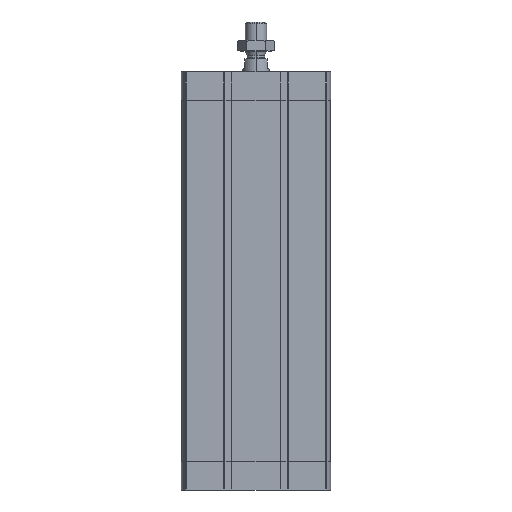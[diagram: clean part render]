
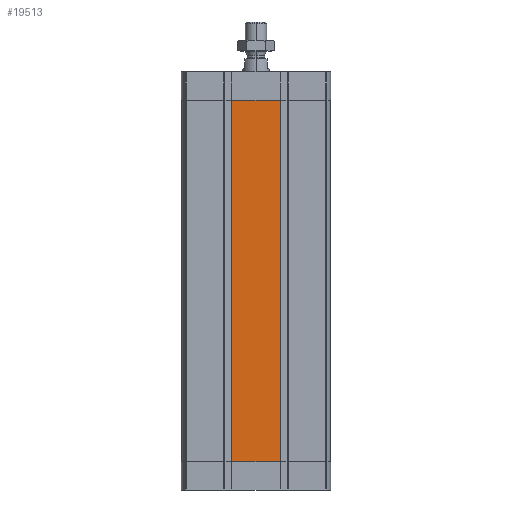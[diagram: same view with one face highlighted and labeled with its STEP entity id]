
A CAD part, left-side view. The second image highlights one B-rep face of the part: STEP entity #19513.
In plain terms, the highlighted planar face has unit normal (-1, 0, 0).
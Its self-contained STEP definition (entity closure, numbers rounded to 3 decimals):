
#47 = DIRECTION ( 'NONE',  ( 0., -1., 0. ) ) ;
#341 = CARTESIAN_POINT ( 'NONE',  ( -56.5, 18.345, -21.5 ) ) ;
#939 = LINE ( 'NONE', #7488, #8159 ) ;
#1394 = DIRECTION ( 'NONE',  ( 0., 0., 1. ) ) ;
#1420 = EDGE_CURVE ( 'NONE', #11037, #13309, #939, .T. ) ;
#2064 = CARTESIAN_POINT ( 'NONE',  ( -56.5, -18.345, -21.5 ) ) ;
#2451 = CARTESIAN_POINT ( 'NONE',  ( -56.5, -18.345, -295.5 ) ) ;
#2991 = LINE ( 'NONE', #9550, #11517 ) ;
#5367 = DIRECTION ( 'NONE',  ( 0., -1., 0. ) ) ;
#5587 = VECTOR ( 'NONE', #47, 1000. ) ;
#5826 = FACE_OUTER_BOUND ( 'NONE', #8339, .T. ) ;
#7488 = CARTESIAN_POINT ( 'NONE',  ( -56.5, 18.345, -295.5 ) ) ;
#8159 = VECTOR ( 'NONE', #20606, 1000. ) ;
#8196 = EDGE_CURVE ( 'NONE', #20294, #17422, #2991, .T. ) ;
#8209 = CARTESIAN_POINT ( 'NONE',  ( -56.5, 18.345, -295.5 ) ) ;
#8339 = EDGE_LOOP ( 'NONE', ( #15152, #15256, #13765, #12438 ) ) ;
#8836 = DIRECTION ( 'NONE',  ( -1., 0., 0. ) ) ;
#9331 = CARTESIAN_POINT ( 'NONE',  ( -56.5, 18.345, -21.5 ) ) ;
#9550 = CARTESIAN_POINT ( 'NONE',  ( -56.5, -18.345, -295.5 ) ) ;
#11037 = VERTEX_POINT ( 'NONE', #8209 ) ;
#11141 = AXIS2_PLACEMENT_3D ( 'NONE', #20331, #8836, #13984 ) ;
#11218 = VECTOR ( 'NONE', #5367, 1000. ) ;
#11517 = VECTOR ( 'NONE', #1394, 1000. ) ;
#12438 = ORIENTED_EDGE ( 'NONE', *, *, #8196, .T. ) ;
#13309 = VERTEX_POINT ( 'NONE', #9331 ) ;
#13765 = ORIENTED_EDGE ( 'NONE', *, *, #18014, .T. ) ;
#13984 = DIRECTION ( 'NONE',  ( 0., 0., 1. ) ) ;
#15152 = ORIENTED_EDGE ( 'NONE', *, *, #15338, .F. ) ;
#15256 = ORIENTED_EDGE ( 'NONE', *, *, #1420, .F. ) ;
#15338 = EDGE_CURVE ( 'NONE', #13309, #17422, #20093, .T. ) ;
#15702 = PLANE ( 'NONE',  #11141 ) ;
#17422 = VERTEX_POINT ( 'NONE', #2064 ) ;
#18014 = EDGE_CURVE ( 'NONE', #11037, #20294, #19598, .T. ) ;
#19513 = ADVANCED_FACE ( 'NONE', ( #5826 ), #15702, .T. ) ;
#19598 = LINE ( 'NONE', #20984, #5587 ) ;
#20093 = LINE ( 'NONE', #341, #11218 ) ;
#20294 = VERTEX_POINT ( 'NONE', #2451 ) ;
#20331 = CARTESIAN_POINT ( 'NONE',  ( -56.5, 18.345, -295.5 ) ) ;
#20606 = DIRECTION ( 'NONE',  ( 0., 0., 1. ) ) ;
#20984 = CARTESIAN_POINT ( 'NONE',  ( -56.5, 18.345, -295.5 ) ) ;
